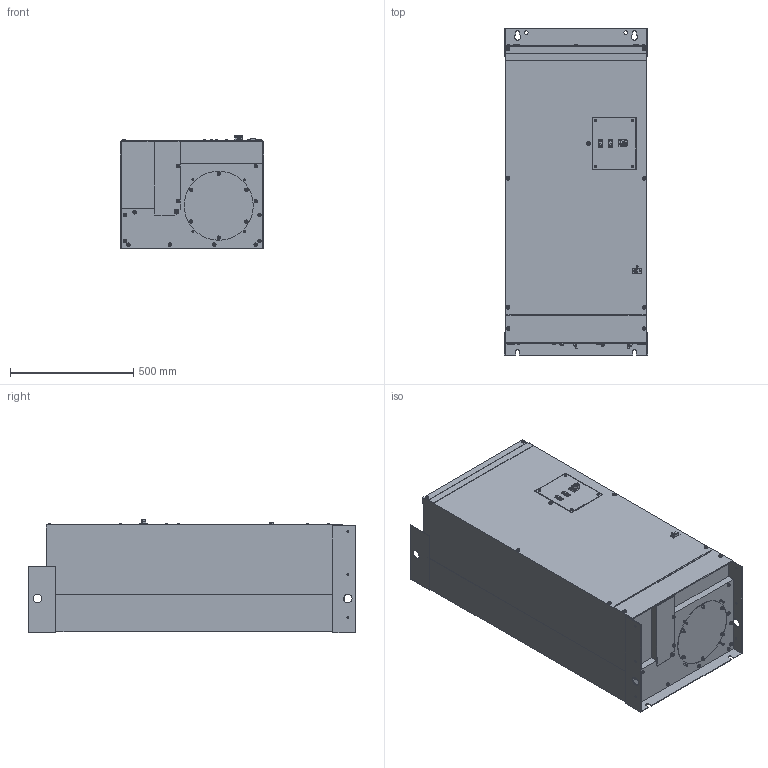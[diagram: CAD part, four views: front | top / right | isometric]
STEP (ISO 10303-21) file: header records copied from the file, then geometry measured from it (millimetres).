
FILE_DESCRIPTION((''),'2;1');
FILE_NAME('EVCP200D5IP00-3D_ASM','2024-08-15T22:27:27',('SESA617601'),('Schneider-Electric'),'CREO PARAMETRIC BY PTC INC, 2021284','CREO PARAMETRIC BY PTC INC, 2021284','');
FILE_SCHEMA(('AP242_MANAGED_MODEL_BASED_3D_ENGINEERING_MIM_LF { 1 0 10303 442 1 1 4 }'));
Length unit declared in the file: millimetre
Products named in the file (6): FS05-PRT-3D; SCREW-05-TOP-3D; SCREW-FS-05-3D; SCREW-FS05-02-3D; SCREW-FS-05-05-3D; EVCP200D5IP00-3D_ASM
Assembly tree (46 placements, depth 2):
  EVCP200D5IP00-3D_ASM
    FS05-PRT-3D
    SCREW-05-TOP-3D  x24
    SCREW-FS-05-3D  x9
    SCREW-FS05-02-3D  x4
    SCREW-FS-05-05-3D  x8
Bounding box: 581.2 x 1323.8 x 461.35 mm (x, y, z)
Volume: 300268072.4 mm3; surface area: 3356496.8 mm2
Topology: 46 solids, 46 shells, 1627 faces, 3889 edges, 2588 vertices
Faces by surface type: cylinder 1002, plane 625
Entity records: 26794 total; most frequent: DIRECTION 3805, CARTESIAN_POINT 3803, ORIENTED_EDGE 3434, EDGE_CURVE 1717, AXIS2_PLACEMENT_3D 1335, VERTEX_POINT 1140, VECTOR 1135, LINE 1135
